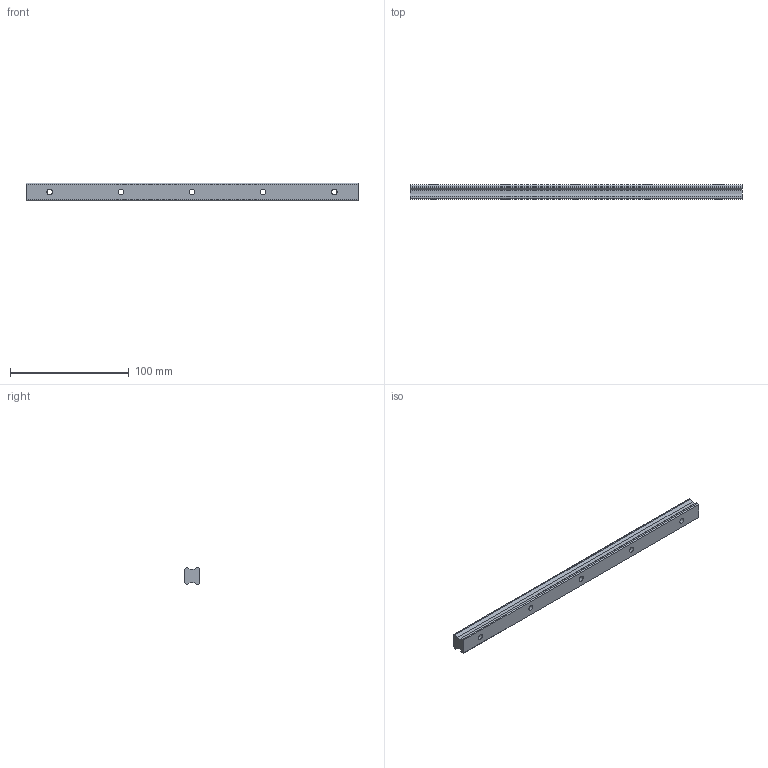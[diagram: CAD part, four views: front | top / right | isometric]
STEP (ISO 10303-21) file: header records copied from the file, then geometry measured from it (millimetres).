
FILE_DESCRIPTION(/* description */ ('STEP AP214'),/* implementation_level */ '2;1');
FILE_NAME(/* name */ 'LSD15RLX280-S20-N-E',/* time_stamp */ '2025-03-14T18:42:25+01:00',/* author */ ('License CC BY-ND 4.0'),/* organization */ ('CADENAS'),/* preprocessor_version */ 'ST-DEVELOPER v19.3',/* originating_system */ 'PARTsolutions',/* authorisation */ ' ');
FILE_SCHEMA (('AUTOMOTIVE_DESIGN {1 0 10303 214 3 1 1}'));
Length unit declared in the file: millimetre
Products named in the file (1): LSD15RLX280-S20-N-E
Bounding box: 280 x 12.5 x 15 mm (x, y, z)
Volume: 43582.6 mm3; surface area: 16857.9 mm2
Topology: 1 solids, 1 shells, 33 faces, 78 edges, 52 vertices
Faces by surface type: plane 23, cylinder 10
Full cylindrical faces by diameter (mm): 4.8 x5, 8 x5
Entity records: 952 total; most frequent: DIRECTION 156, CARTESIAN_POINT 154, ORIENTED_EDGE 136, EDGE_CURVE 68, EDGE_LOOP 58, FACE_BOUND 58, AXIS2_PLACEMENT_3D 54, VERTEX_POINT 52
